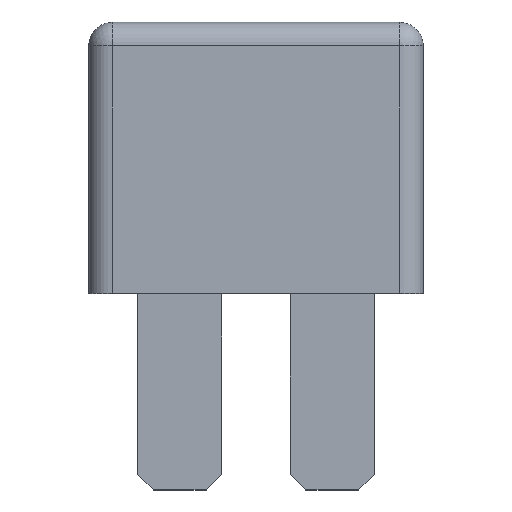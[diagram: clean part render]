
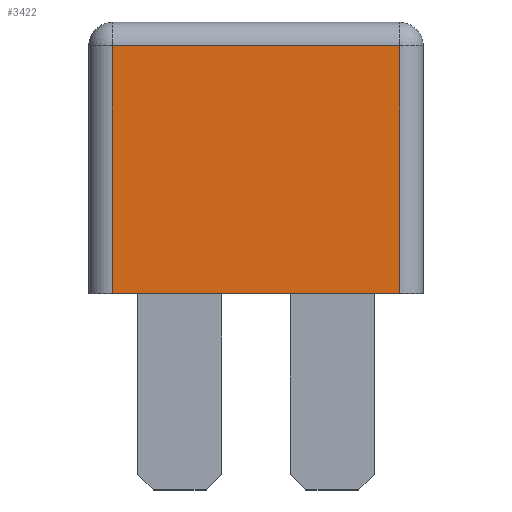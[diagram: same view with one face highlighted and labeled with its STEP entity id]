
A CAD part, top view. The second image highlights one B-rep face of the part: STEP entity #3422.
In plain terms, the highlighted planar face has unit normal (0, 0, 1).
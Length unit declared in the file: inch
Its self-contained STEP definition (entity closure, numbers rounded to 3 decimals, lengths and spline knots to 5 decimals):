
#311=FACE_OUTER_BOUND('',#517,.T.);
#517=EDGE_LOOP('',(#3064,#3065,#3066,#3067));
#983=LINE('',#6264,#1317);
#984=LINE('',#6271,#1318);
#985=LINE('',#6274,#1319);
#986=LINE('',#6277,#1320);
#1317=VECTOR('',#4155,0.3937);
#1318=VECTOR('',#4166,0.3937);
#1319=VECTOR('',#4169,0.3937);
#1320=VECTOR('',#4174,0.3937);
#1648=VERTEX_POINT('',#6261);
#1649=VERTEX_POINT('',#6263);
#1650=VERTEX_POINT('',#6267);
#1651=VERTEX_POINT('',#6273);
#2124=EDGE_CURVE('',#1648,#1649,#983,.T.);
#2128=EDGE_CURVE('',#1649,#1650,#984,.T.);
#2129=EDGE_CURVE('',#1650,#1651,#985,.T.);
#2131=EDGE_CURVE('',#1651,#1648,#986,.T.);
#3064=ORIENTED_EDGE('',*,*,#2128,.F.);
#3065=ORIENTED_EDGE('',*,*,#2124,.F.);
#3066=ORIENTED_EDGE('',*,*,#2131,.F.);
#3067=ORIENTED_EDGE('',*,*,#2129,.F.);
#3230=PLANE('',#3582);
#3422=ADVANCED_FACE('',(#311),#3230,.T.);
#3582=AXIS2_PLACEMENT_3D('',#6276,#4172,#4173);
#4155=DIRECTION('',(-1.,0.,0.));
#4166=DIRECTION('',(0.,1.,0.));
#4169=DIRECTION('',(1.,0.,0.));
#4172=DIRECTION('center_axis',(0.,0.,1.));
#4173=DIRECTION('ref_axis',(-1.,0.,0.));
#4174=DIRECTION('',(0.,-1.,0.));
#6261=CARTESIAN_POINT('',(0.3652,-0.68898,0.20276));
#6263=CARTESIAN_POINT('',(-0.3652,-0.68898,0.20276));
#6264=CARTESIAN_POINT('',(-0.4252,-0.68898,0.20276));
#6267=CARTESIAN_POINT('',(-0.3652,-0.06,0.20276));
#6271=CARTESIAN_POINT('',(-0.3652,0.,0.20276));
#6273=CARTESIAN_POINT('',(0.3652,-0.06,0.20276));
#6274=CARTESIAN_POINT('',(0.2126,-0.06,0.20276));
#6276=CARTESIAN_POINT('Origin',(0.4252,0.,0.20276));
#6277=CARTESIAN_POINT('',(0.3652,0.,0.20276));
